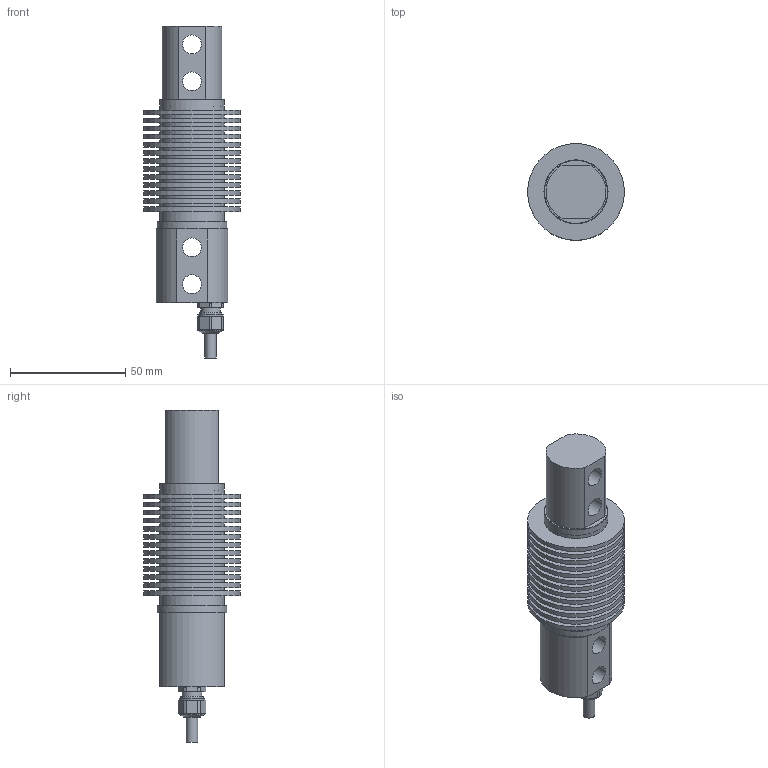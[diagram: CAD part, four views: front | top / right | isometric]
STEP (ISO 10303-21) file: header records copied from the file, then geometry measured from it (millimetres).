
FILE_DESCRIPTION(/* description */ ('Alibre Inc.'),/* implementation_level */ '2;1');
FILE_NAME(/* name */ 'export0',/* time_stamp */ '2015-03-09T10:51:54+01:00',/* author */ (''),/* organization */ (''),/* preprocessor_version */ 'ST-DEVELOPER v14',/* originating_system */ 'Alibre',/* authorisation */ '');
FILE_SCHEMA (('CONFIG_CONTROL_DESIGN'));
Length unit declared in the file: centimetre
Products named in the file (6): ID_1; _HUGRO 101.0805.00-(3.5); ID_2
Bounding box: 42 x 42 x 144 mm (x, y, z)
Volume: 66363.1 mm3; surface area: 48581.5 mm2
Topology: 4 solids, 6 shells, 175 faces, 362 edges, 235 vertices
Faces by surface type: plane 76, cylinder 74, cone 17, torus 8
Full cylindrical faces by diameter (mm): 3.5 x1, 4 x4, 5 x1, 5.1 x1, 5.2 x1, 6.466 x2, 6.5 x1, 6.7 x1, 6.917 x1, 8 x1, 8.2 x4, 8.596 x1, 9 x1, 9.15 x1, 9.794 x1, 10.9 x2, 27.35 x1, 27.4 x1, 27.8 x14, 30.3 x1, 42 x13
Entity records: 4834 total; most frequent: CARTESIAN_POINT 911, DIRECTION 655, ORIENTED_EDGE 554, AXIS2_PLACEMENT_3D 329, FACE_BOUND 313, EDGE_LOOP 312, EDGE_CURVE 277, VERTEX_POINT 224
